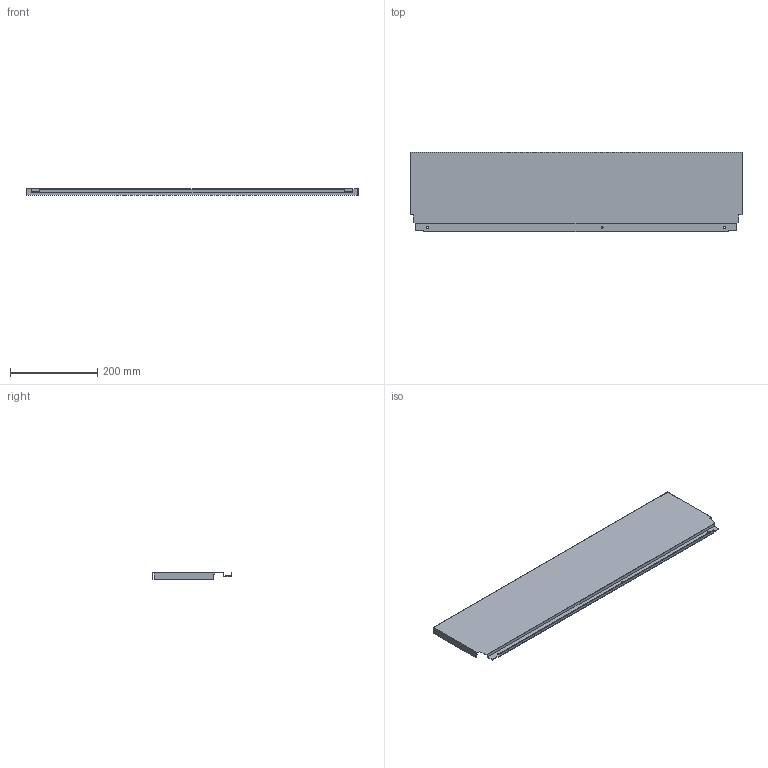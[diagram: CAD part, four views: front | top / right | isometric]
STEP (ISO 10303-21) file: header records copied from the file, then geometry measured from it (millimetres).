
FILE_DESCRIPTION (( 'STEP AP214' ), '1' );
FILE_NAME ('_DWD_XP Stahlrückwand_H182_KAB850_S18.step', '2010-07-08T12:57:59', ( 'grass' ), ( '' ), 'SwSTEP 2.0', 'SolidWorks 2010', '' );
FILE_SCHEMA (( 'AUTOMOTIVE_DESIGN' ));
Length unit declared in the file: millimetre
Products named in the file (1): _DWD_XP Stahlrückwand_H182_KAB850_S18
Bounding box: 763 x 182.49 x 16 mm (x, y, z)
Volume: 143242.4 mm3; surface area: 331383.8 mm2
Topology: 1 solids, 1 shells, 46 faces, 132 edges, 88 vertices
Faces by surface type: plane 40, cylinder 6
Entity records: 1534 total; most frequent: CARTESIAN_POINT 267, ORIENTED_EDGE 264, DIRECTION 238, EDGE_CURVE 132, LINE 120, VECTOR 120, VERTEX_POINT 88, AXIS2_PLACEMENT_3D 59
